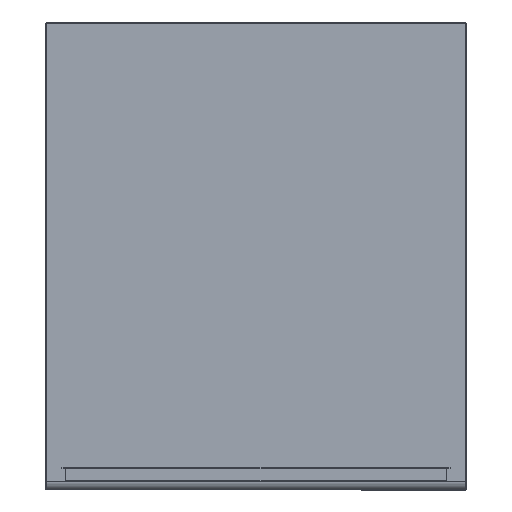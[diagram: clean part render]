
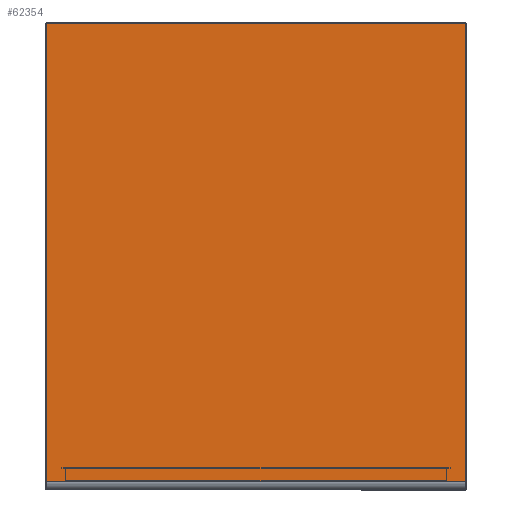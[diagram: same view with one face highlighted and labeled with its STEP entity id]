
A CAD part, top view. The second image highlights one B-rep face of the part: STEP entity #62354.
In plain terms, the highlighted planar face has unit normal (0, 0, 1).
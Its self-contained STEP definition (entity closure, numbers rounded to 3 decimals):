
#4572=LINE('',#91920,#10161);
#4573=LINE('',#91922,#10162);
#4574=LINE('',#91923,#10163);
#4575=LINE('',#91925,#10164);
#10161=VECTOR('',#75615,1000.);
#10162=VECTOR('',#75616,1000.);
#10163=VECTOR('',#75617,1000.);
#10164=VECTOR('',#75618,1000.);
#19209=ORIENTED_EDGE('',*,*,#35144,.F.);
#19210=ORIENTED_EDGE('',*,*,#35145,.T.);
#19211=ORIENTED_EDGE('',*,*,#35146,.T.);
#19212=ORIENTED_EDGE('',*,*,#35147,.T.);
#35144=EDGE_CURVE('',#43609,#43618,#4572,.T.);
#35145=EDGE_CURVE('',#43609,#43615,#4573,.T.);
#35146=EDGE_CURVE('',#43615,#43619,#4574,.T.);
#35147=EDGE_CURVE('',#43619,#43618,#4575,.T.);
#43609=VERTEX_POINT('',#91900);
#43615=VERTEX_POINT('',#91913);
#43618=VERTEX_POINT('',#91921);
#43619=VERTEX_POINT('',#91924);
#52001=EDGE_LOOP('',(#19209,#19210,#19211,#19212));
#56625=FACE_BOUND('',#52001,.T.);
#60136=PLANE('',#66737);
#62354=ADVANCED_FACE('',(#56625),#60136,.T.);
#66737=AXIS2_PLACEMENT_3D('',#91919,#75613,#75614);
#75613=DIRECTION('',(0.,0.,1.));
#75614=DIRECTION('',(0.,-1.,0.));
#75615=DIRECTION('',(1.,0.,0.));
#75616=DIRECTION('',(0.,-1.,0.));
#75617=DIRECTION('',(1.,0.,0.));
#75618=DIRECTION('',(0.,1.,0.));
#91900=CARTESIAN_POINT('',(-266.798,291.148,21.));
#91913=CARTESIAN_POINT('',(-266.798,-291.85,21.));
#91919=CARTESIAN_POINT('',(-267.5,291.85,21.));
#91920=CARTESIAN_POINT('',(-267.5,291.148,21.));
#91921=CARTESIAN_POINT('',(266.798,291.148,21.));
#91922=CARTESIAN_POINT('',(-266.798,291.148,21.));
#91923=CARTESIAN_POINT('',(-267.5,-291.85,21.));
#91924=CARTESIAN_POINT('',(266.798,-291.85,21.));
#91925=CARTESIAN_POINT('',(266.798,-291.85,21.));
